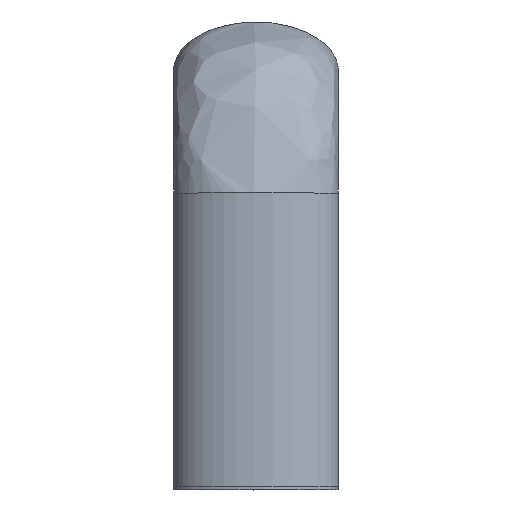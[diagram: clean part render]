
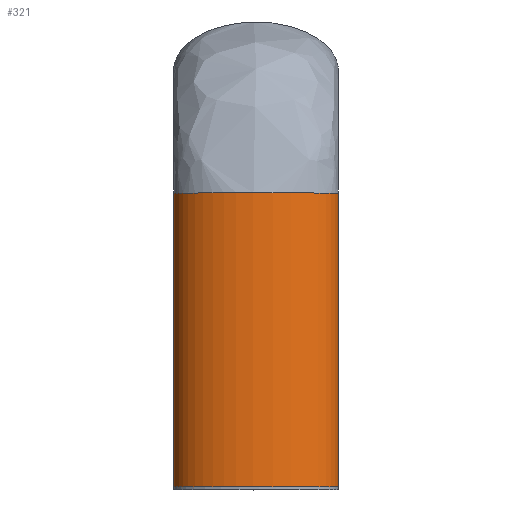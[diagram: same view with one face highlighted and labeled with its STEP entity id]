
A CAD part, top view. The second image highlights one B-rep face of the part: STEP entity #321.
In plain terms, the highlighted free-form (B-spline) face has degree [3, 1] with [7, 2] control points.
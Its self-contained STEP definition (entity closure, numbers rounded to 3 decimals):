
#4 = CARTESIAN_POINT ( 'NONE',  ( -6.737, 0., -8. ) ) ;
#10 = CARTESIAN_POINT ( 'NONE',  ( -6.737, 0., 0. ) ) ;
#19 = CARTESIAN_POINT ( 'NONE',  ( -6.737, 0., 0. ) ) ;
#21 = VERTEX_POINT ( 'NONE', #127 ) ;
#33 = EDGE_CURVE ( 'NONE', #438, #467, #397, .T. ) ;
#47 = CARTESIAN_POINT ( 'NONE',  ( 6.737, 24., 0. ) ) ;
#76 =( BOUNDED_SURFACE ( )  B_SPLINE_SURFACE ( 3, 1, ( 
 ( #641, #585 ),
 ( #121, #170 ),
 ( #4, #579 ),
 ( #539, #478 ),
 ( #691, #485 ),
 ( #178, #417 ),
 ( #371, #599 ) ),
 .UNSPECIFIED., .T., .F., .T. ) 
 B_SPLINE_SURFACE_WITH_KNOTS ( ( 4, 3, 4 ),
 ( 2, 2 ),
 ( 0., 0.5, 1. ),
 ( 0., 1. ),
 .UNSPECIFIED. ) 
 GEOMETRIC_REPRESENTATION_ITEM ( )  RATIONAL_B_SPLINE_SURFACE ( (
 ( 1., 1.),
 ( 0.333, 0.333),
 ( 0.333, 0.333),
 ( 1., 1.),
 ( 0.333, 0.333),
 ( 0.333, 0.333),
 ( 1., 1.) ) ) 
 REPRESENTATION_ITEM ( '' )  SURFACE ( )  );
#121 = CARTESIAN_POINT ( 'NONE',  ( 6.737, 0., -8. ) ) ;
#127 = CARTESIAN_POINT ( 'NONE',  ( 6.737, 24., 0. ) ) ;
#170 = CARTESIAN_POINT ( 'NONE',  ( 6.737, 24., -8. ) ) ;
#178 = CARTESIAN_POINT ( 'NONE',  ( 6.737, 0., 8. ) ) ;
#182 = CARTESIAN_POINT ( 'NONE',  ( 6.737, 0., 0. ) ) ;
#229 = CARTESIAN_POINT ( 'NONE',  ( 6.737, 24., 8. ) ) ;
#241 = CARTESIAN_POINT ( 'NONE',  ( -6.737, 0., 8. ) ) ;
#268 = B_SPLINE_CURVE_WITH_KNOTS ( 'NONE', 1,
 ( #518, #290 ),
 .UNSPECIFIED., .F., .F.,
 ( 2, 2 ),
 ( 0., 1. ),
 .UNSPECIFIED. ) ;
#272 = B_SPLINE_CURVE_WITH_KNOTS ( 'NONE', 1,
 ( #578, #534 ),
 .UNSPECIFIED., .F., .F.,
 ( 2, 2 ),
 ( 0., 1. ),
 .UNSPECIFIED. ) ;
#276 = EDGE_CURVE ( 'NONE', #438, #620, #272, .T. ) ;
#290 = CARTESIAN_POINT ( 'NONE',  ( 6.737, 24., 0. ) ) ;
#299 = ORIENTED_EDGE ( 'NONE', *, *, #33, .T. ) ;
#321 = ADVANCED_FACE ( 'NONE', ( #405 ), #76, .T. ) ;
#363 = CARTESIAN_POINT ( 'NONE',  ( 6.737, 0., 8. ) ) ;
#370 = ORIENTED_EDGE ( 'NONE', *, *, #644, .T. ) ;
#371 = CARTESIAN_POINT ( 'NONE',  ( 6.737, 0., 0. ) ) ;
#393 = CARTESIAN_POINT ( 'NONE',  ( -6.737, 24., 8. ) ) ;
#397 =( BOUNDED_CURVE ( )  B_SPLINE_CURVE ( 3, ( #10, #241, #363, #182 ),
 .UNSPECIFIED., .F., .T. ) 
 B_SPLINE_CURVE_WITH_KNOTS ( ( 4, 4 ),
 ( 3.142, 6.283 ),
 .UNSPECIFIED. ) 
 CURVE ( )  GEOMETRIC_REPRESENTATION_ITEM ( )  RATIONAL_B_SPLINE_CURVE ( ( 1., 0.333, 0.333, 1. ) ) 
 REPRESENTATION_ITEM ( '' )  );
#405 = FACE_OUTER_BOUND ( 'NONE', #442, .T. ) ;
#417 = CARTESIAN_POINT ( 'NONE',  ( 6.737, 24., 8. ) ) ;
#438 = VERTEX_POINT ( 'NONE', #19 ) ;
#442 = EDGE_LOOP ( 'NONE', ( #498, #299, #370, #501 ) ) ;
#467 = VERTEX_POINT ( 'NONE', #701 ) ;
#474 =( BOUNDED_CURVE ( )  B_SPLINE_CURVE ( 3, ( #580, #393, #229, #47 ),
 .UNSPECIFIED., .F., .T. ) 
 B_SPLINE_CURVE_WITH_KNOTS ( ( 4, 4 ),
 ( 3.142, 6.283 ),
 .UNSPECIFIED. ) 
 CURVE ( )  GEOMETRIC_REPRESENTATION_ITEM ( )  RATIONAL_B_SPLINE_CURVE ( ( 1., 0.333, 0.333, 1. ) ) 
 REPRESENTATION_ITEM ( '' )  );
#478 = CARTESIAN_POINT ( 'NONE',  ( -6.737, 24., 0. ) ) ;
#485 = CARTESIAN_POINT ( 'NONE',  ( -6.737, 24., 8. ) ) ;
#498 = ORIENTED_EDGE ( 'NONE', *, *, #276, .F. ) ;
#501 = ORIENTED_EDGE ( 'NONE', *, *, #625, .F. ) ;
#518 = CARTESIAN_POINT ( 'NONE',  ( 6.737, 0., 0. ) ) ;
#534 = CARTESIAN_POINT ( 'NONE',  ( -6.737, 24., 0. ) ) ;
#539 = CARTESIAN_POINT ( 'NONE',  ( -6.737, 0., 0. ) ) ;
#571 = CARTESIAN_POINT ( 'NONE',  ( -6.737, 24., 0. ) ) ;
#578 = CARTESIAN_POINT ( 'NONE',  ( -6.737, 0., 0. ) ) ;
#579 = CARTESIAN_POINT ( 'NONE',  ( -6.737, 24., -8. ) ) ;
#580 = CARTESIAN_POINT ( 'NONE',  ( -6.737, 24., 0. ) ) ;
#585 = CARTESIAN_POINT ( 'NONE',  ( 6.737, 24., 0. ) ) ;
#599 = CARTESIAN_POINT ( 'NONE',  ( 6.737, 24., 0. ) ) ;
#620 = VERTEX_POINT ( 'NONE', #571 ) ;
#625 = EDGE_CURVE ( 'NONE', #620, #21, #474, .T. ) ;
#641 = CARTESIAN_POINT ( 'NONE',  ( 6.737, 0., 0. ) ) ;
#644 = EDGE_CURVE ( 'NONE', #467, #21, #268, .T. ) ;
#691 = CARTESIAN_POINT ( 'NONE',  ( -6.737, 0., 8. ) ) ;
#701 = CARTESIAN_POINT ( 'NONE',  ( 6.737, 0., 0. ) ) ;
